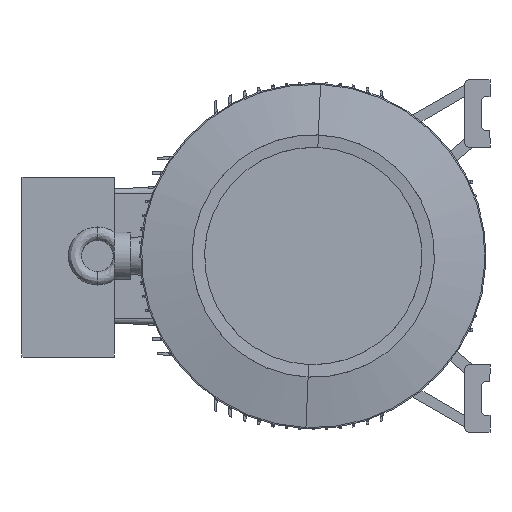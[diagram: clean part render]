
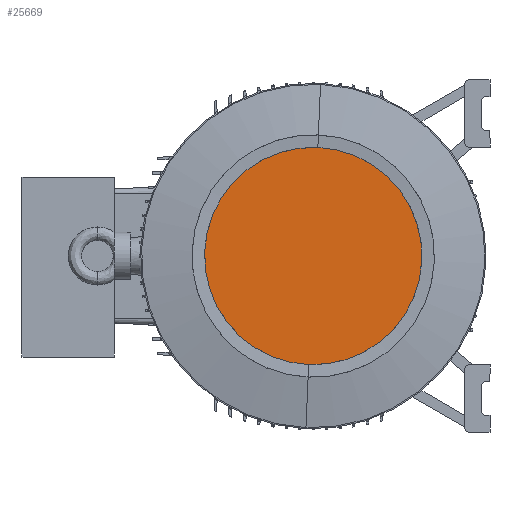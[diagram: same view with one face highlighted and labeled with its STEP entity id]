
A CAD part, left-side view. The second image highlights one B-rep face of the part: STEP entity #25669.
In plain terms, the highlighted planar face has unit normal (-1, 0, 0) as drawn and (1, 0, 0) by its records, which use the part's own axes.
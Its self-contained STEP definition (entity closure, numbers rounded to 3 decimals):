
#1901 = CARTESIAN_POINT ( 'NONE',  ( 338., 0., 193.623 ) ) ;
#1966 = CARTESIAN_POINT ( 'NONE',  ( 338., 0., -193.623 ) ) ;
#4683 = AXIS2_PLACEMENT_3D ( 'NONE', #19371, #19358, #19388 ) ;
#9043 = FACE_OUTER_BOUND ( 'NONE', #26378, .T. ) ;
#11476 = ORIENTED_EDGE ( 'NONE', *, *, #20747, .T. ) ;
#11484 = ORIENTED_EDGE ( 'NONE', *, *, #20763, .T. ) ;
#13776 = VERTEX_POINT ( 'NONE', #1901 ) ;
#13834 = VERTEX_POINT ( 'NONE', #1966 ) ;
#18234 = CARTESIAN_POINT ( 'NONE',  ( 338., 0., 0. ) ) ;
#18235 = DIRECTION ( 'NONE',  ( 1., 0., 0. ) ) ;
#18309 = DIRECTION ( 'NONE',  ( 0., 0., -1. ) ) ;
#19349 = PLANE ( 'NONE',  #4683 ) ;
#19358 = DIRECTION ( 'NONE',  ( -1., 0., 0. ) ) ;
#19371 = CARTESIAN_POINT ( 'NONE',  ( 338., 193.623, 0. ) ) ;
#19388 = DIRECTION ( 'NONE',  ( 0., 0., 1. ) ) ;
#20747 = EDGE_CURVE ( 'NONE', #13834, #13776, #28739, .T. ) ;
#20763 = EDGE_CURVE ( 'NONE', #13776, #13834, #28763, .T. ) ;
#22312 = AXIS2_PLACEMENT_3D ( 'NONE', #18234, #18235, #18309 ) ;
#22335 = AXIS2_PLACEMENT_3D ( 'NONE', #28684, #28686, #27838 ) ;
#25669 = ADVANCED_FACE ( 'NONE', ( #9043 ), #19349, .F. ) ;
#26378 = EDGE_LOOP ( 'NONE', ( #11476, #11484 ) ) ;
#27838 = DIRECTION ( 'NONE',  ( 0., 0., -1. ) ) ;
#28684 = CARTESIAN_POINT ( 'NONE',  ( 338., 0., 0. ) ) ;
#28686 = DIRECTION ( 'NONE',  ( 1., 0., 0. ) ) ;
#28739 = CIRCLE ( 'NONE', #22312, 193.623 ) ;
#28763 = CIRCLE ( 'NONE', #22335, 193.623 ) ;
